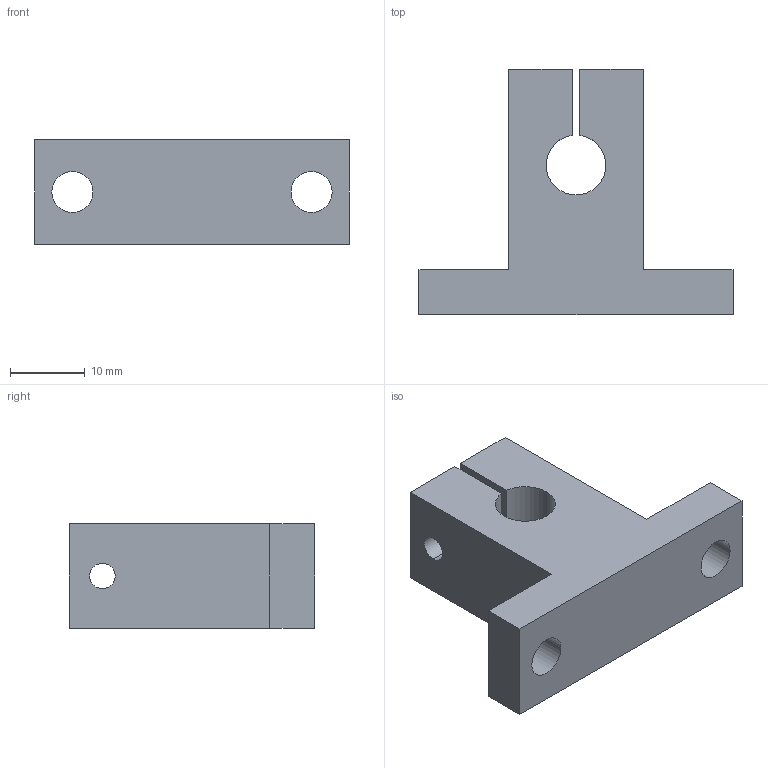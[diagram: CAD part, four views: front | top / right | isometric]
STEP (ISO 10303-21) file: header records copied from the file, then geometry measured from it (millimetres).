
FILE_DESCRIPTION((''),'2;1');
FILE_NAME('C:\Documents and Settings\ｿﾀﾀ蠑ｷ1\ｹﾙﾅﾁ ﾈｭｸ饅\ｺﾎﾇｰﾆﾄﾀﾏ\ﾁｦﾇｰ\SK\SK8.stp','2005-06-15T17:38:11',('ｿﾀﾀ蠑ｷ1'),(''),'Autodesk Inventor 9','Autodesk Inventor 9','');
FILE_SCHEMA(('AUTOMOTIVE_DESIGN { 1 0 10303 214 1 1 1 1 }'));
Length unit declared in the file: millimetre
Products named in the file (1): SK__
Bounding box: 42 x 32.8 x 14 mm (x, y, z)
Volume: 8802.5 mm3; surface area: 4338.9 mm2
Topology: 1 solids, 1 shells, 27 faces, 72 edges, 48 vertices
Faces by surface type: plane 13, bspline 11, cylinder 3
Entity records: 1021 total; most frequent: CARTESIAN_POINT 321, ORIENTED_EDGE 144, DIRECTION 132, EDGE_CURVE 72, VERTEX_POINT 48, VECTOR 46, LINE 46, AXIS2_PLACEMENT_3D 43
